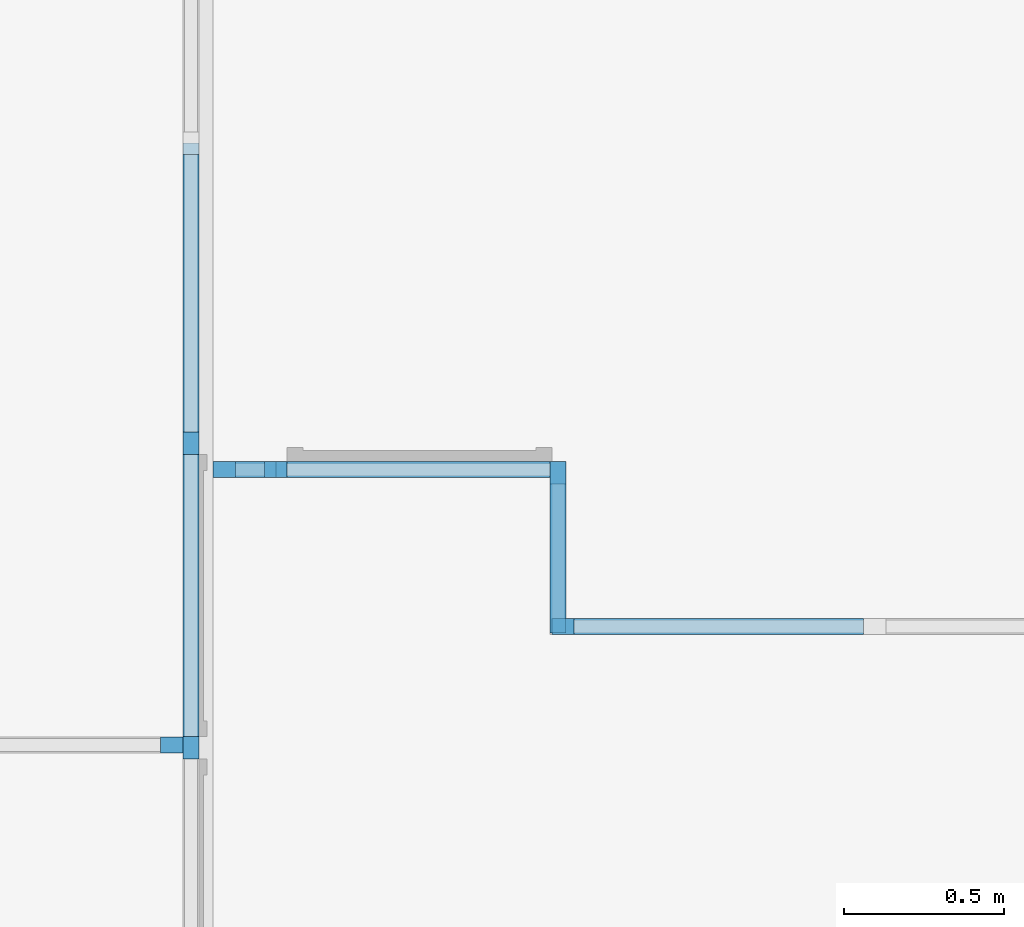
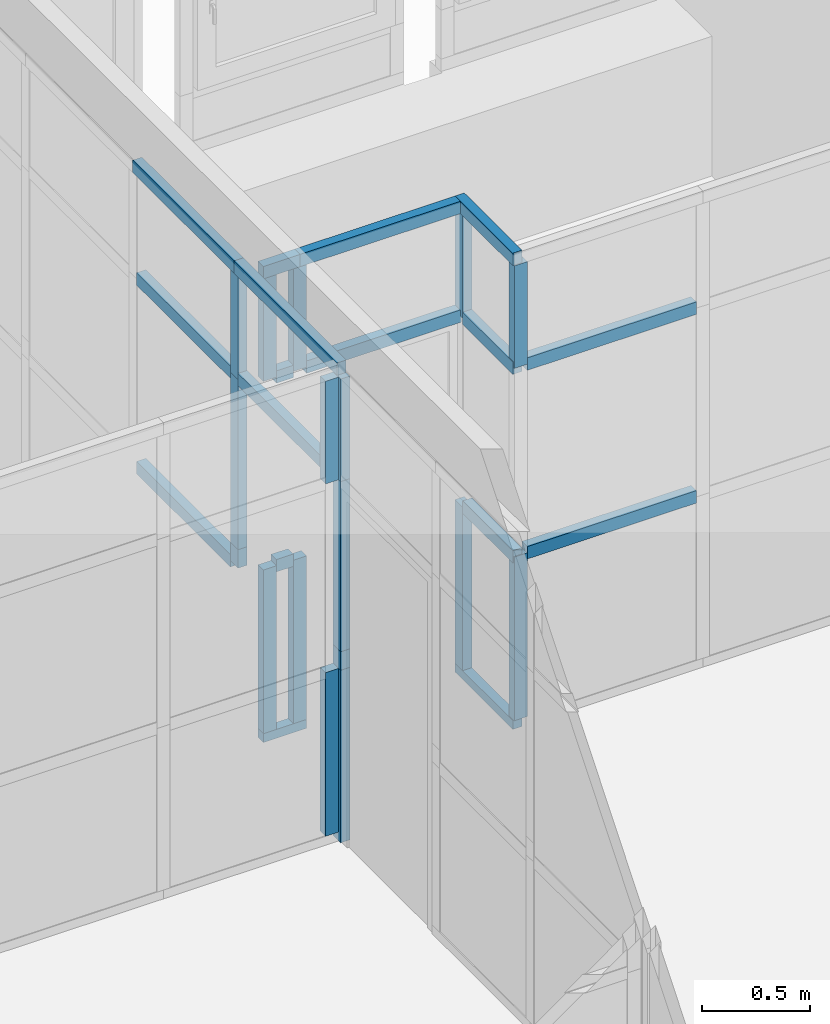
# One storey, part 21 of 97: 34 members, 5 elements without a shape of their own.
"""IFC4 building model written with IfcOpenShell, lengths in metres."""

from ifc_helpers import new_model, entity, si_unit, converted_unit, derived_unit, direction, frame, origin, place, context, subcontext, project, spatial, indexed_curve, outline, extrude, source, transform, mapped, material, type_object, type_shapes, element, aggregate, save


model = new_model("IFC4")

# Units and contexts
model_context = context("Model", 3, precision=1e-05, world=origin(), true_north=direction((6.12303176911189e-17, 1.0)))
body_context = subcontext(model_context, "Body", "Model", "MODEL_VIEW")
ifc_project = project(units=[si_unit("LENGTHUNIT", "METRE"), si_unit("AREAUNIT", "SQUARE_METRE"), si_unit("VOLUMEUNIT", "CUBIC_METRE"), converted_unit("PLANEANGLEUNIT", "DEGREE", entity("IfcRatioMeasure", 0.0174532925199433), si_unit("PLANEANGLEUNIT", "RADIAN"), dimensions=[0, 0, 0, 0, 0, 0, 0]), si_unit("MASSUNIT", "GRAM", prefix="KILO"), derived_unit("MASSDENSITYUNIT", [(si_unit("MASSUNIT", "GRAM", prefix="KILO"), 1), (si_unit("LENGTHUNIT", "METRE"), -3)]), derived_unit("MOMENTOFINERTIAUNIT", [(si_unit("LENGTHUNIT", "METRE"), 4)]), si_unit("TIMEUNIT", "SECOND"), si_unit("FREQUENCYUNIT", "HERTZ"), si_unit("THERMODYNAMICTEMPERATUREUNIT", "DEGREE_CELSIUS"), derived_unit("THERMALTRANSMITTANCEUNIT", [(si_unit("MASSUNIT", "GRAM", prefix="KILO"), 1), (si_unit("THERMODYNAMICTEMPERATUREUNIT", "KELVIN"), -1), (si_unit("TIMEUNIT", "SECOND"), -3)]), derived_unit("VOLUMETRICFLOWRATEUNIT", [(si_unit("LENGTHUNIT", "METRE"), 3), (si_unit("TIMEUNIT", "SECOND"), -1)]), si_unit("ELECTRICCURRENTUNIT", "AMPERE"), si_unit("ELECTRICVOLTAGEUNIT", "VOLT"), si_unit("POWERUNIT", "WATT"), si_unit("FORCEUNIT", "NEWTON", prefix="KILO"), si_unit("ILLUMINANCEUNIT", "LUX"), si_unit("LUMINOUSFLUXUNIT", "LUMEN"), si_unit("LUMINOUSINTENSITYUNIT", "CANDELA"), derived_unit("USERDEFINED", [(si_unit("MASSUNIT", "GRAM", prefix="KILO"), -1), (si_unit("LENGTHUNIT", "METRE"), -2), (si_unit("TIMEUNIT", "SECOND"), 3), (si_unit("LUMINOUSFLUXUNIT", "LUMEN"), 1)]), derived_unit("LINEARVELOCITYUNIT", [(si_unit("LENGTHUNIT", "METRE"), 1), (si_unit("TIMEUNIT", "SECOND"), -1)]), si_unit("PRESSUREUNIT", "PASCAL"), derived_unit("USERDEFINED", [(si_unit("LENGTHUNIT", "METRE"), -2), (si_unit("MASSUNIT", "GRAM", prefix="KILO"), 1), (si_unit("TIMEUNIT", "SECOND"), -2)]), derived_unit("LINEARFORCEUNIT", [(si_unit("MASSUNIT", "GRAM", prefix="KILO"), 1), (si_unit("LENGTHUNIT", "METRE"), 1), (si_unit("TIMEUNIT", "SECOND"), -2), (si_unit("LENGTHUNIT", "METRE"), -1)]), derived_unit("PLANARFORCEUNIT", [(si_unit("MASSUNIT", "GRAM", prefix="KILO"), 1), (si_unit("LENGTHUNIT", "METRE"), 1), (si_unit("TIMEUNIT", "SECOND"), -2), (si_unit("LENGTHUNIT", "METRE"), -2)])], contexts=[model_context])

# Site, building, storey
site_placement = place(None, origin())
site = spatial("IfcSite", under=ifc_project, at=site_placement, Name="Default", CompositionType="ELEMENT")
building_placement = place(site_placement, origin())
building = spatial("IfcBuilding", under=site, at=building_placement, Name="HOTEL CONSULAIRE BOULOGNE SUR MER", CompositionType="ELEMENT")
storey_placement = place(building_placement, frame((0.0, 0.0, 3.62152697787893)))
storey = spatial("IfcBuildingStorey", under=building, at=storey_placement, Name="Niveau 1", CompositionType="ELEMENT", Elevation=3.62152697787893)

# Curtain wall, members
curtain_wall_type = type_object("IfcCurtainWallType", Name="Mur-rideau:Simple panneau", PredefinedType="NOTDEFINED")
curtain_wall_1_placement = place(storey_placement, frame((0.0, 0.0, -3.62152697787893)))
curtain_wall_1 = element("IfcCurtainWall", 1, at=curtain_wall_1_placement, inside=storey, type_object=curtain_wall_type, Name="Mur-rideau:Simple panneau", ObjectType="Mur-rideau:Simple panneau", PredefinedType="NOTDEFINED")
ifc_material = material(Name="PVC, souple", Category="Plastique")
member_type_1 = type_object("IfcMemberType", Name="Meneau rectangulaire:50 x 35 pvc gris", PredefinedType="MULLION", material=ifc_material)
shared_shape_1 = source(origin(), body_context, "Body", "SweptSolid", [
    extrude(outline(indexed_curve([(-0.025, -0.035), (0.025, -0.035), (0.025, 0.035), (-0.025, 0.035), (-0.025, -0.035)], self_intersect=False)), frame((0.0, -0.025, -0.581), z_axis=(0.0, 0.0, 1.0), x_axis=(0.0, -1.0, 0.0)), (0.0, 0.0, 1.0), 0.581),
])
type_shapes(member_type_1, [shared_shape_1])
member_1_placement = place(storey_placement, frame((-9.64962464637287, -14.2312596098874, 2.04596046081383), z_axis=(0.0, 0.0, -1.0), x_axis=(0.0, 1.0, 0.0)))
member_1 = element("IfcMember", 2, at=member_1_placement, type_object=member_type_1, material=ifc_material, Name="Meneau rectangulaire:50 x 35 pvc gris", ObjectType="Meneau rectangulaire:50 x 35 pvc gris", PredefinedType="MULLION", context=body_context, shape_type="MappedRepresentation", body=[
    mapped(shared_shape_1, transform((0.0, 0.0, 0.0), scale=1.0)),
])
member_2_placement = place(storey_placement, frame((-9.64962464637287, -13.2772596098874, 2.04596046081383), z_axis=(0.0, 0.0, -1.0), x_axis=(0.0, 1.0, 0.0)))
member_2 = element("IfcMember", 3, at=member_2_placement, type_object=member_type_1, material=ifc_material, Name="Meneau rectangulaire:50 x 35 pvc gris", ObjectType="Meneau rectangulaire:50 x 35 pvc gris", PredefinedType="MULLION", context=body_context, shape_type="MappedRepresentation", body=[
    mapped(shared_shape_1, transform((0.0, 0.0, 0.0), scale=1.0)),
])

curtain_wall_2_placement = place(storey_placement, frame((0.0, 0.0, -3.62152697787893)))
curtain_wall_2 = element("IfcCurtainWall", 4, at=curtain_wall_2_placement, inside=storey, type_object=curtain_wall_type, Name="Mur-rideau:Simple panneau", ObjectType="Mur-rideau:Simple panneau", PredefinedType="NOTDEFINED")
member_3_placement = place(storey_placement, frame((-9.40862464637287, -13.3345509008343, 2.04596046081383), z_axis=(0.0, 0.0, -1.0), x_axis=(-1.0, 0.0, 0.0)))
member_3 = element("IfcMember", 5, at=member_3_placement, type_object=member_type_1, material=ifc_material, Name="Meneau rectangulaire:50 x 35 pvc gris", ObjectType="Meneau rectangulaire:50 x 35 pvc gris", PredefinedType="MULLION", context=body_context, shape_type="MappedRepresentation", body=[
    mapped(shared_shape_1, transform((0.0, 0.0, 0.0), scale=1.0)),
])
member_type_2 = type_object("IfcMemberType", Name="Meneau rectangulaire:50 x 35 pvc gris", PredefinedType="MULLION", material=ifc_material)
shared_shape_2 = source(origin(), body_context, "Body", "SweptSolid", [
    extrude(outline(indexed_curve([(-0.025, -0.035), (0.025, -0.035), (0.025, 0.035), (-0.025, 0.035), (-0.025, -0.035)], self_intersect=False)), frame((0.0, -0.025, -0.926960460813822), z_axis=(0.0, 0.0, 1.0), x_axis=(0.0, -1.0, 0.0)), (0.0, 0.0, 1.0), 0.926960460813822),
])
type_shapes(member_type_2, [shared_shape_2])
member_4_placement = place(storey_placement, frame((-9.40862464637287, -13.3345509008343, 0.050000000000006), z_axis=(0.0, 0.0, -1.0), x_axis=(-1.0, 0.0, 0.0)))
member_4 = element("IfcMember", 6, at=member_4_placement, type_object=member_type_2, material=ifc_material, Name="Meneau rectangulaire:50 x 35 pvc gris", ObjectType="Meneau rectangulaire:50 x 35 pvc gris", PredefinedType="MULLION", context=body_context, shape_type="MappedRepresentation", body=[
    mapped(shared_shape_2, transform((0.0, 0.0, 0.0), scale=1.0)),
])

# Member
member_type_3 = type_object("IfcMemberType", Name="Meneau rectangulaire:50 x 35 pvc gris", PredefinedType="MULLION", material=ifc_material)
shared_shape_3 = source(origin(), body_context, "Body", "SweptSolid", [
    extrude(outline(indexed_curve([(-0.025, -0.035), (0.025, -0.035), (0.025, 0.035), (-0.025, 0.035), (-0.025, -0.035)], self_intersect=False)), frame((0.0, -0.025, -0.870645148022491), z_axis=(0.0, 0.0, 1.0), x_axis=(0.0, -1.0, 0.0)), (0.0, 0.0, 1.0), 0.870645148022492),
])
type_shapes(member_type_3, [shared_shape_3])
member_5_placement = place(storey_placement, frame((-9.64962464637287, -12.3716144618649, 0.976960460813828), z_axis=(0.0, 1.0, 0.0), x_axis=(0.0, 0.0, 1.0)))
member_5 = element("IfcMember", 7, at=member_5_placement, type_object=member_type_3, material=ifc_material, Name="Meneau rectangulaire:50 x 35 pvc gris", ObjectType="Meneau rectangulaire:50 x 35 pvc gris", PredefinedType="MULLION", context=body_context, shape_type="MappedRepresentation", body=[
    mapped(shared_shape_3, transform((0.0, 0.0, 0.0), scale=1.0)),
])

member_6_placement = place(storey_placement, frame((-9.64962464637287, -12.3716144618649, 2.04596046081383), z_axis=(0.0, 1.0, 0.0), x_axis=(0.0, 0.0, 1.0)))
member_6 = element("IfcMember", 8, at=member_6_placement, type_object=member_type_3, material=ifc_material, Name="Meneau rectangulaire:50 x 35 pvc gris", ObjectType="Meneau rectangulaire:50 x 35 pvc gris", PredefinedType="MULLION", context=body_context, shape_type="MappedRepresentation", body=[
    mapped(shared_shape_3, transform((0.0, 0.0, 0.0), scale=1.0)),
])

member_type_4 = type_object("IfcMemberType", Name="Meneau rectangulaire:50 x 35 pvc gris", PredefinedType="MULLION", material=ifc_material)
shared_shape_4 = source(origin(), body_context, "Body", "SweptSolid", [
    extrude(outline(indexed_curve([(-0.025, -0.035), (0.025, -0.035), (0.025, 0.035), (-0.025, 0.035), (-0.025, -0.035)], self_intersect=False)), frame((0.0, -0.025, -0.883999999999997), z_axis=(0.0, 0.0, 1.0), x_axis=(0.0, -1.0, 0.0)), (0.0, 0.0, 1.0), 0.883999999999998),
])
type_shapes(member_type_4, [shared_shape_4])
member_7_placement = place(storey_placement, frame((-9.64962464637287, -13.3122596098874, 2.04596046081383), z_axis=(0.0, 1.0, 0.0), x_axis=(0.0, 0.0, 1.0)))
member_7 = element("IfcMember", 9, at=member_7_placement, type_object=member_type_4, material=ifc_material, Name="Meneau rectangulaire:50 x 35 pvc gris", ObjectType="Meneau rectangulaire:50 x 35 pvc gris", PredefinedType="MULLION", context=body_context, shape_type="MappedRepresentation", body=[
    mapped(shared_shape_4, transform((0.0, 0.0, 0.0), scale=1.0)),
])

member_type_5 = type_object("IfcMemberType", Name="Meneau rectangulaire:50 x 35 pvc gris", PredefinedType="MULLION", material=ifc_material)
shared_shape_5 = source(origin(), body_context, "Body", "SweptSolid", [
    extrude(outline(indexed_curve([(-0.025, -0.035), (0.025, -0.035), (0.025, 0.035), (-0.025, 0.035), (-0.025, -0.035)], self_intersect=False)), frame((0.0, -0.025, -0.105), z_axis=(0.0, 0.0, 1.0), x_axis=(0.0, -1.0, 0.0)), (0.0, 0.0, 1.0), 0.105),
])
type_shapes(member_type_5, [shared_shape_5])
member_8_placement = place(storey_placement, frame((-9.64962464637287, -13.2772596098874, 0.976960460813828), z_axis=(0.0, 0.0, -1.0), x_axis=(0.0, 1.0, 0.0)))
member_8 = element("IfcMember", 10, at=member_8_placement, type_object=member_type_5, material=ifc_material, Name="Meneau rectangulaire:50 x 35 pvc gris", ObjectType="Meneau rectangulaire:50 x 35 pvc gris", PredefinedType="MULLION", context=body_context, shape_type="MappedRepresentation", body=[
    mapped(shared_shape_5, transform((0.0, 0.0, 0.0), scale=1.0)),
])

member_type_6 = type_object("IfcMemberType", Name="Meneau rectangulaire:50 x 35 pvc gris", PredefinedType="MULLION", material=ifc_material)
shared_shape_6 = source(origin(), body_context, "Body", "SweptSolid", [
    extrude(outline(indexed_curve([(-0.025, -0.035), (0.025, -0.035), (0.025, 0.035), (-0.025, 0.035), (-0.025, -0.035)], self_intersect=False)), frame((0.0, -0.025, -0.964), z_axis=(0.0, 0.0, 1.0), x_axis=(0.0, -1.0, 0.0)), (0.0, 0.0, 1.0), 0.964),
])
type_shapes(member_type_6, [shared_shape_6])
member_9_placement = place(storey_placement, frame((-9.64962464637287, -14.2312596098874, 1.08196046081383), z_axis=(0.0, 0.0, -1.0), x_axis=(0.0, 1.0, 0.0)))
member_9 = element("IfcMember", 11, at=member_9_placement, type_object=member_type_6, material=ifc_material, Name="Meneau rectangulaire:50 x 35 pvc gris", ObjectType="Meneau rectangulaire:50 x 35 pvc gris", PredefinedType="MULLION", context=body_context, shape_type="MappedRepresentation", body=[
    mapped(shared_shape_6, transform((0.0, 0.0, 0.0), scale=1.0)),
])

member_10_placement = place(storey_placement, frame((-9.64962464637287, -13.2772596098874, 1.08196046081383), z_axis=(0.0, 0.0, -1.0), x_axis=(0.0, 1.0, 0.0)))
member_10 = element("IfcMember", 12, at=member_10_placement, type_object=member_type_6, material=ifc_material, Name="Meneau rectangulaire:50 x 35 pvc gris", ObjectType="Meneau rectangulaire:50 x 35 pvc gris", PredefinedType="MULLION", context=body_context, shape_type="MappedRepresentation", body=[
    mapped(shared_shape_6, transform((0.0, 0.0, 0.0), scale=1.0)),
])

# Curtain wall, member
curtain_wall_3_placement = place(storey_placement, frame((0.0, 0.0, -3.62152697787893)))
curtain_wall_3 = element("IfcCurtainWall", 13, at=curtain_wall_3_placement, inside=storey, type_object=curtain_wall_type, Name="Mur-rideau:Simple panneau", ObjectType="Mur-rideau:Simple panneau", PredefinedType="NOTDEFINED")
member_type_7 = type_object("IfcMemberType", Name="Meneau rectangulaire:50 x 35 pvc gris", PredefinedType="MULLION", material=ifc_material)
shared_shape_7 = source(origin(), body_context, "Body", "SweptSolid", [
    extrude(outline(indexed_curve([(-0.025, -0.035), (0.025, -0.035), (0.025, 0.035), (-0.025, 0.035), (-0.025, -0.035)], self_intersect=False)), frame((-0.035, -0.025, -0.581), z_axis=(0.0, 0.0, 1.0), x_axis=(0.0, -1.0, 0.0)), (0.0, 0.0, 1.0), 0.581),
])
type_shapes(member_type_7, [shared_shape_7])
member_11_placement = place(storey_placement, frame((-9.69962464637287, -14.2474499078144, 2.04596046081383), z_axis=(0.0, 0.0, -1.0), x_axis=(1.0, 0.0, 0.0)))
member_11 = element("IfcMember", 14, at=member_11_placement, type_object=member_type_7, material=ifc_material, Name="Meneau rectangulaire:50 x 35 pvc gris", ObjectType="Meneau rectangulaire:50 x 35 pvc gris", PredefinedType="MULLION", context=body_context, shape_type="MappedRepresentation", body=[
    mapped(shared_shape_7, transform((0.0, 0.0, 0.0), scale=1.0)),
])

# Member
member_12_placement = place(storey_placement, frame((-9.60462464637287, -13.3345509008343, 2.04596046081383), z_axis=(0.0, 0.0, -1.0), x_axis=(-1.0, 0.0, 0.0)))
member_12 = element("IfcMember", 15, at=member_12_placement, type_object=member_type_7, material=ifc_material, Name="Meneau rectangulaire:50 x 35 pvc gris", ObjectType="Meneau rectangulaire:50 x 35 pvc gris", PredefinedType="MULLION", context=body_context, shape_type="MappedRepresentation", body=[
    mapped(shared_shape_7, transform((0.0, 0.0, 0.0), scale=1.0)),
])

# Curtain wall, member
curtain_wall_4_placement = place(storey_placement, frame((0.0, 0.0, -3.62152697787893)))
curtain_wall_4 = element("IfcCurtainWall", 16, at=curtain_wall_4_placement, inside=storey, type_object=curtain_wall_type, Name="Mur-rideau:Simple panneau", ObjectType="Mur-rideau:Simple panneau", PredefinedType="NOTDEFINED")
member_13_placement = place(storey_placement, frame((-8.54396741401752, -13.8259141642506, 2.04596046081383), z_axis=(0.0, 0.0, -1.0), x_axis=(-1.0, 0.0, 0.0)))
member_13 = element("IfcMember", 17, at=member_13_placement, type_object=member_type_7, material=ifc_material, Name="Meneau rectangulaire:50 x 35 pvc gris", ObjectType="Meneau rectangulaire:50 x 35 pvc gris", PredefinedType="MULLION", context=body_context, shape_type="MappedRepresentation", body=[
    mapped(shared_shape_7, transform((0.0, 0.0, 0.0), scale=1.0)),
])

curtain_wall_5_placement = place(storey_placement, frame((0.0, 0.0, -3.62152697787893)))
curtain_wall_5 = element("IfcCurtainWall", 18, at=curtain_wall_5_placement, inside=storey, type_object=curtain_wall_type, Name="Mur-rideau:Simple panneau", ObjectType="Mur-rideau:Simple panneau", PredefinedType="NOTDEFINED")
member_14_placement = place(storey_placement, frame((-8.49896741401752, -13.3345509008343, 2.04596046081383), z_axis=(0.0, 0.0, -1.0), x_axis=(0.0, 1.0, 0.0)))
member_14 = element("IfcMember", 19, at=member_14_placement, type_object=member_type_7, material=ifc_material, Name="Meneau rectangulaire:50 x 35 pvc gris", ObjectType="Meneau rectangulaire:50 x 35 pvc gris", PredefinedType="MULLION", context=body_context, shape_type="MappedRepresentation", body=[
    mapped(shared_shape_7, transform((0.0, 0.0, 0.0), scale=1.0)),
])

# Member
member_type_8 = type_object("IfcMemberType", Name="Meneau rectangulaire:50 x 35 pvc gris", PredefinedType="MULLION", material=ifc_material)
shared_shape_8 = source(origin(), body_context, "Body", "SweptSolid", [
    extrude(outline(indexed_curve([(-0.025, -0.035), (0.025, -0.035), (0.025, 0.035), (-0.025, 0.035), (-0.025, -0.035)], self_intersect=False)), frame((-0.035, -0.025, -0.926960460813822), z_axis=(0.0, 0.0, 1.0), x_axis=(0.0, -1.0, 0.0)), (0.0, 0.0, 1.0), 0.926960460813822),
])
type_shapes(member_type_8, [shared_shape_8])
member_15_placement = place(storey_placement, frame((-9.69962464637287, -14.2474499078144, 0.050000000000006), z_axis=(0.0, 0.0, -1.0), x_axis=(1.0, 0.0, 0.0)))
member_15 = element("IfcMember", 20, at=member_15_placement, type_object=member_type_8, material=ifc_material, Name="Meneau rectangulaire:50 x 35 pvc gris", ObjectType="Meneau rectangulaire:50 x 35 pvc gris", PredefinedType="MULLION", context=body_context, shape_type="MappedRepresentation", body=[
    mapped(shared_shape_8, transform((0.0, 0.0, 0.0), scale=1.0)),
])

aggregate(curtain_wall_3, [member_11, member_15])

member_16_placement = place(storey_placement, frame((-9.60462464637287, -13.3345509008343, 0.050000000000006), z_axis=(0.0, 0.0, -1.0), x_axis=(-1.0, 0.0, 0.0)))
member_16 = element("IfcMember", 21, at=member_16_placement, type_object=member_type_8, material=ifc_material, Name="Meneau rectangulaire:50 x 35 pvc gris", ObjectType="Meneau rectangulaire:50 x 35 pvc gris", PredefinedType="MULLION", context=body_context, shape_type="MappedRepresentation", body=[
    mapped(shared_shape_8, transform((0.0, 0.0, 0.0), scale=1.0)),
])

member_17_placement = place(storey_placement, frame((-8.54396741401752, -13.8259141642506, 0.050000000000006), z_axis=(0.0, 0.0, -1.0), x_axis=(-1.0, 0.0, 0.0)))
member_17 = element("IfcMember", 22, at=member_17_placement, type_object=member_type_8, material=ifc_material, Name="Meneau rectangulaire:50 x 35 pvc gris", ObjectType="Meneau rectangulaire:50 x 35 pvc gris", PredefinedType="MULLION", context=body_context, shape_type="MappedRepresentation", body=[
    mapped(shared_shape_8, transform((0.0, 0.0, 0.0), scale=1.0)),
])

member_18_placement = place(storey_placement, frame((-8.49896741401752, -13.3345509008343, 0.050000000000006), z_axis=(0.0, 0.0, -1.0), x_axis=(0.0, 1.0, 0.0)))
member_18 = element("IfcMember", 23, at=member_18_placement, type_object=member_type_8, material=ifc_material, Name="Meneau rectangulaire:50 x 35 pvc gris", ObjectType="Meneau rectangulaire:50 x 35 pvc gris", PredefinedType="MULLION", context=body_context, shape_type="MappedRepresentation", body=[
    mapped(shared_shape_8, transform((0.0, 0.0, 0.0), scale=1.0)),
])

member_type_9 = type_object("IfcMemberType", Name="Meneau rectangulaire:50 x 35 pvc gris", PredefinedType="MULLION", material=ifc_material)
shared_shape_9 = source(origin(), body_context, "Body", "SweptSolid", [
    extrude(outline(indexed_curve([(-0.025, -0.035), (0.025, -0.035), (0.025, 0.035), (-0.025, 0.035), (-0.025, -0.035)], self_intersect=False)), frame((-0.035, -0.025, -0.940645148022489), z_axis=(0.0, 0.0, 1.0), x_axis=(0.0, -1.0, 0.0)), (0.0, 0.0, 1.0), 0.940645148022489),
])
type_shapes(member_type_9, [shared_shape_9])
member_19_placement = place(storey_placement, frame((-9.64962464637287, -12.3366144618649, 2.69696046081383), z_axis=(0.0, 1.0, 0.0), x_axis=(0.0, 0.0, 1.0)))
member_19 = element("IfcMember", 24, at=member_19_placement, type_object=member_type_9, material=ifc_material, Name="Meneau rectangulaire:50 x 35 pvc gris", ObjectType="Meneau rectangulaire:50 x 35 pvc gris", PredefinedType="MULLION", context=body_context, shape_type="MappedRepresentation", body=[
    mapped(shared_shape_9, transform((0.0, 0.0, 0.0), scale=1.0)),
])

member_type_10 = type_object("IfcMemberType", Name="Meneau rectangulaire:50 x 35 pvc gris", PredefinedType="MULLION", material=ifc_material)
shared_shape_10 = source(origin(), body_context, "Body", "SweptSolid", [
    extrude(outline(indexed_curve([(-0.025, -0.035), (0.025, -0.035), (0.025, 0.035), (-0.025, 0.035), (-0.025, -0.035)], self_intersect=False)), frame((-0.035, -0.025, -0.954), z_axis=(0.0, 0.0, 1.0), x_axis=(0.0, -1.0, 0.0)), (0.0, 0.0, 1.0), 0.954),
])
type_shapes(member_type_10, [shared_shape_10])
member_20_placement = place(storey_placement, frame((-9.64962464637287, -13.2772596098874, 2.69696046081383), z_axis=(0.0, 1.0, 0.0), x_axis=(0.0, 0.0, 1.0)))
member_20 = element("IfcMember", 25, at=member_20_placement, type_object=member_type_10, material=ifc_material, Name="Meneau rectangulaire:50 x 35 pvc gris", ObjectType="Meneau rectangulaire:50 x 35 pvc gris", PredefinedType="MULLION", context=body_context, shape_type="MappedRepresentation", body=[
    mapped(shared_shape_10, transform((0.0, 0.0, 0.0), scale=1.0)),
])

member_type_11 = type_object("IfcMemberType", Name="Meneau rectangulaire:50 x 35 pvc gris", PredefinedType="MULLION", material=ifc_material)
shared_shape_11 = source(origin(), body_context, "Body", "SweptSolid", [
    extrude(outline(indexed_curve([(-0.025, -0.035), (0.025, -0.035), (0.025, 0.035), (-0.025, 0.035), (-0.025, -0.035)], self_intersect=False)), frame((0.0, -0.025, -0.105), z_axis=(0.0, 0.0, 1.0), x_axis=(0.0, -1.0, 0.0)), (0.0, 0.0, 1.0), 0.105),
])
type_shapes(member_type_11, [shared_shape_11])
member_21_placement = place(storey_placement, frame((-9.64962464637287, -14.2312596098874, 0.976960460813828), z_axis=(0.0, 0.0, -1.0), x_axis=(0.0, 1.0, 0.0)))
member_21 = element("IfcMember", 26, at=member_21_placement, type_object=member_type_11, material=ifc_material, Name="Meneau rectangulaire:50 x 35 pvc gris", ObjectType="Meneau rectangulaire:50 x 35 pvc gris", PredefinedType="MULLION", context=body_context, shape_type="MappedRepresentation", body=[
    mapped(shared_shape_11, transform((0.0, 0.0, 0.0), scale=1.0)),
])

member_type_12 = type_object("IfcMemberType", Name="Meneau rectangulaire:50 x 35 pvc gris", PredefinedType="MULLION", material=ifc_material)
shared_shape_12 = source(origin(), body_context, "Body", "SweptSolid", [
    extrude(outline(indexed_curve([(-0.025, -0.035), (0.025, -0.035), (0.025, 0.035), (-0.025, 0.035), (-0.025, -0.035)], self_intersect=False)), frame((0.0, -0.025, -0.976960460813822), z_axis=(0.0, 0.0, 1.0), x_axis=(0.0, -1.0, 0.0)), (0.0, 0.0, 1.0), 0.976960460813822),
])
type_shapes(member_type_12, [shared_shape_12])
member_22_placement = place(storey_placement, frame((-9.64962464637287, -14.2312596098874, 0.0), z_axis=(0.0, 0.0, -1.0), x_axis=(0.0, 1.0, 0.0)))
member_22 = element("IfcMember", 27, at=member_22_placement, type_object=member_type_12, material=ifc_material, Name="Meneau rectangulaire:50 x 35 pvc gris", ObjectType="Meneau rectangulaire:50 x 35 pvc gris", PredefinedType="MULLION", context=body_context, shape_type="MappedRepresentation", body=[
    mapped(shared_shape_12, transform((0.0, 0.0, 0.0), scale=1.0)),
])

aggregate(curtain_wall_1, [member_5, member_6, member_7, member_19, member_20, member_21, member_9, member_1, member_22, member_8, member_10, member_2])

member_type_13 = type_object("IfcMemberType", Name="Meneau rectangulaire:50 x 35 pvc gris", PredefinedType="MULLION", material=ifc_material)
shared_shape_13 = source(origin(), body_context, "Body", "SweptSolid", [
    extrude(outline(indexed_curve([(-0.025, -0.035), (0.025, -0.035), (0.025, 0.035), (-0.025, 0.035), (-0.025, -0.035)], self_intersect=False)), frame((-0.035, -0.025, -0.864657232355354), z_axis=(0.0, 0.0, 1.0), x_axis=(0.0, -1.0, 0.0)), (0.0, 0.0, 1.0), 0.864657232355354),
])
type_shapes(member_type_13, [shared_shape_13])
member_23_placement = place(storey_placement, frame((-9.40862464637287, -13.3345509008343, 2.69696046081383), z_axis=(-1.0, 0.0, 0.0), x_axis=(0.0, 0.0, 1.0)))
member_23 = element("IfcMember", 28, at=member_23_placement, type_object=member_type_13, material=ifc_material, Name="Meneau rectangulaire:50 x 35 pvc gris", ObjectType="Meneau rectangulaire:50 x 35 pvc gris", PredefinedType="MULLION", context=body_context, shape_type="MappedRepresentation", body=[
    mapped(shared_shape_13, transform((0.0, 0.0, 0.0), scale=1.0)),
])

member_type_14 = type_object("IfcMemberType", Name="Meneau rectangulaire:50 x 35 pvc gris", PredefinedType="MULLION", material=ifc_material)
shared_shape_14 = source(origin(), body_context, "Body", "SweptSolid", [
    extrude(outline(indexed_curve([(-0.025, -0.035), (0.025, -0.035), (0.025, 0.035), (-0.025, 0.035), (-0.025, -0.035)], self_intersect=False)), frame((-0.035, -0.025, -0.196), z_axis=(0.0, 0.0, 1.0), x_axis=(0.0, -1.0, 0.0)), (0.0, 0.0, 1.0), 0.196),
])
type_shapes(member_type_14, [shared_shape_14])
member_24_placement = place(storey_placement, frame((-9.60462464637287, -13.3345509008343, 2.69696046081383), z_axis=(-1.0, 0.0, 0.0), x_axis=(0.0, 0.0, 1.0)))
member_24 = element("IfcMember", 29, at=member_24_placement, type_object=member_type_14, material=ifc_material, Name="Meneau rectangulaire:50 x 35 pvc gris", ObjectType="Meneau rectangulaire:50 x 35 pvc gris", PredefinedType="MULLION", context=body_context, shape_type="MappedRepresentation", body=[
    mapped(shared_shape_14, transform((0.0, 0.0, 0.0), scale=1.0)),
])

member_type_15 = type_object("IfcMemberType", Name="Meneau rectangulaire:50 x 35 pvc gris", PredefinedType="MULLION", material=ifc_material)
shared_shape_15 = source(origin(), body_context, "Body", "SweptSolid", [
    extrude(outline(indexed_curve([(-0.025, -0.035), (0.025, -0.035), (0.025, 0.035), (-0.025, 0.035), (-0.025, -0.035)], self_intersect=False)), frame((0.0, -0.025, -0.0909999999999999), z_axis=(0.0, 0.0, 1.0), x_axis=(0.0, -1.0, 0.0)), (0.0, 0.0, 1.0), 0.0909999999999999),
])
type_shapes(member_type_15, [shared_shape_15])
member_25_placement = place(storey_placement, frame((-9.53462464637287, -13.3345509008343, 2.04596046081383), z_axis=(-1.0, 0.0, 0.0), x_axis=(0.0, 0.0, 1.0)))
member_25 = element("IfcMember", 30, at=member_25_placement, type_object=member_type_15, material=ifc_material, Name="Meneau rectangulaire:50 x 35 pvc gris", ObjectType="Meneau rectangulaire:50 x 35 pvc gris", PredefinedType="MULLION", context=body_context, shape_type="MappedRepresentation", body=[
    mapped(shared_shape_15, transform((0.0, 0.0, 0.0), scale=1.0)),
])

member_26_placement = place(storey_placement, frame((-9.53462464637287, -13.3345509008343, 0.977000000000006), z_axis=(-1.0, 0.0, 0.0), x_axis=(0.0, 0.0, 1.0)))
member_26 = element("IfcMember", 31, at=member_26_placement, type_object=member_type_15, material=ifc_material, Name="Meneau rectangulaire:50 x 35 pvc gris", ObjectType="Meneau rectangulaire:50 x 35 pvc gris", PredefinedType="MULLION", context=body_context, shape_type="MappedRepresentation", body=[
    mapped(shared_shape_15, transform((0.0, 0.0, 0.0), scale=1.0)),
])

member_type_16 = type_object("IfcMemberType", Name="Meneau rectangulaire:50 x 35 pvc gris", PredefinedType="MULLION", material=ifc_material)
shared_shape_16 = source(origin(), body_context, "Body", "SweptSolid", [
    extrude(outline(indexed_curve([(-0.025, -0.035), (0.025, -0.035), (0.025, 0.035), (-0.025, 0.035), (-0.025, -0.035)], self_intersect=False)), frame((0.0, -0.025, -0.829657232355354), z_axis=(0.0, 0.0, 1.0), x_axis=(0.0, -1.0, 0.0)), (0.0, 0.0, 1.0), 0.829657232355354),
])
type_shapes(member_type_16, [shared_shape_16])
member_27_placement = place(storey_placement, frame((-9.37362464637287, -13.3345509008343, 2.04596046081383), z_axis=(-1.0, 0.0, 0.0), x_axis=(0.0, 0.0, 1.0)))
member_27 = element("IfcMember", 32, at=member_27_placement, type_object=member_type_16, material=ifc_material, Name="Meneau rectangulaire:50 x 35 pvc gris", ObjectType="Meneau rectangulaire:50 x 35 pvc gris", PredefinedType="MULLION", context=body_context, shape_type="MappedRepresentation", body=[
    mapped(shared_shape_16, transform((0.0, 0.0, 0.0), scale=1.0)),
])

member_type_17 = type_object("IfcMemberType", Name="Meneau rectangulaire:50 x 25mm pvc gris", PredefinedType="MULLION", material=ifc_material)
shared_shape_17 = source(origin(), body_context, "Body", "SweptSolid", [
    extrude(outline(indexed_curve([(-0.025, -0.025), (0.025, -0.025), (0.025, 0.025), (-0.025, 0.025), (-0.025, -0.025)], self_intersect=False)), frame((-0.025, -0.025, -0.230999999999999), z_axis=(0.0, 0.0, 1.0), x_axis=(0.0, -1.0, 0.0)), (0.0, 0.0, 1.0), 0.231),
])
type_shapes(member_type_17, [shared_shape_17])
member_28_placement = place(storey_placement, frame((-9.37362464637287, -13.3345509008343, 0.0), z_axis=(1.0, 0.0, 0.0), x_axis=(0.0, 0.0, -1.0)))
member_28 = element("IfcMember", 33, at=member_28_placement, type_object=member_type_17, material=ifc_material, Name="Meneau rectangulaire:50 x 25mm pvc gris", ObjectType="Meneau rectangulaire:50 x 25mm pvc gris", PredefinedType="MULLION", context=body_context, shape_type="MappedRepresentation", body=[
    mapped(shared_shape_17, transform((0.0, 0.0, 0.0), scale=1.0)),
])

aggregate(curtain_wall_2, [member_23, member_24, member_3, member_4, member_25, member_27, member_12, member_16, member_26, member_28])

member_type_18 = type_object("IfcMemberType", Name="Meneau rectangulaire:50 x 35 pvc gris", PredefinedType="MULLION", material=ifc_material)
shared_shape_18 = source(origin(), body_context, "Body", "SweptSolid", [
    extrude(outline(indexed_curve([(-0.025, -0.035), (0.025, -0.035), (0.025, 0.035), (-0.025, 0.035), (-0.025, -0.035)], self_intersect=False)), frame((0.0, -0.025, -0.906398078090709), z_axis=(0.0, 0.0, 1.0), x_axis=(0.0, -1.0, 0.0)), (0.0, 0.0, 1.0), 0.906398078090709),
])
type_shapes(member_type_18, [shared_shape_18])
member_29_placement = place(storey_placement, frame((-8.47396741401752, -13.8259141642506, 2.04596046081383), z_axis=(-1.0, 0.0, 0.0), x_axis=(0.0, 0.0, 1.0)))
member_29 = element("IfcMember", 34, at=member_29_placement, type_object=member_type_18, material=ifc_material, Name="Meneau rectangulaire:50 x 35 pvc gris", ObjectType="Meneau rectangulaire:50 x 35 pvc gris", PredefinedType="MULLION", context=body_context, shape_type="MappedRepresentation", body=[
    mapped(shared_shape_18, transform((0.0, 0.0, 0.0), scale=1.0)),
])

member_30_placement = place(storey_placement, frame((-8.47396741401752, -13.8259141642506, 0.977000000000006), z_axis=(-1.0, 0.0, 0.0), x_axis=(0.0, 0.0, 1.0)))
member_30 = element("IfcMember", 35, at=member_30_placement, type_object=member_type_18, material=ifc_material, Name="Meneau rectangulaire:50 x 35 pvc gris", ObjectType="Meneau rectangulaire:50 x 35 pvc gris", PredefinedType="MULLION", context=body_context, shape_type="MappedRepresentation", body=[
    mapped(shared_shape_18, transform((0.0, 0.0, 0.0), scale=1.0)),
])

aggregate(curtain_wall_4, [member_29, member_30, member_13, member_17])

member_type_19 = type_object("IfcMemberType", Name="Meneau rectangulaire:50 x 35 pvc gris", PredefinedType="MULLION", material=ifc_material)
shared_shape_19 = source(origin(), body_context, "Body", "SweptSolid", [
    extrude(outline(indexed_curve([(-0.025, -0.035), (0.025, -0.035), (0.025, 0.035), (-0.025, 0.035), (-0.025, -0.035)], self_intersect=False)), frame((0.0, -0.025, -0.466363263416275), z_axis=(0.0, 0.0, 1.0), x_axis=(0.0, -1.0, 0.0)), (0.0, 0.0, 1.0), 0.466363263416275),
])
type_shapes(member_type_19, [shared_shape_19])
member_31_placement = place(storey_placement, frame((-8.49896741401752, -13.4045509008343, 0.977000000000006), z_axis=(0.0, 1.0, 0.0), x_axis=(0.0, 0.0, 1.0)))
member_31 = element("IfcMember", 36, at=member_31_placement, type_object=member_type_19, material=ifc_material, Name="Meneau rectangulaire:50 x 35 pvc gris", ObjectType="Meneau rectangulaire:50 x 35 pvc gris", PredefinedType="MULLION", context=body_context, shape_type="MappedRepresentation", body=[
    mapped(shared_shape_19, transform((0.0, 0.0, 0.0), scale=1.0)),
])

member_32_placement = place(storey_placement, frame((-8.49896741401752, -13.4045509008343, 2.04596046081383), z_axis=(0.0, 1.0, 0.0), x_axis=(0.0, 0.0, 1.0)))
member_32 = element("IfcMember", 37, at=member_32_placement, type_object=member_type_19, material=ifc_material, Name="Meneau rectangulaire:50 x 35 pvc gris", ObjectType="Meneau rectangulaire:50 x 35 pvc gris", PredefinedType="MULLION", context=body_context, shape_type="MappedRepresentation", body=[
    mapped(shared_shape_19, transform((0.0, 0.0, 0.0), scale=1.0)),
])

member_type_20 = type_object("IfcMemberType", Name="Meneau rectangulaire:50 x 35 pvc gris", PredefinedType="MULLION", material=ifc_material)
shared_shape_20 = source(origin(), body_context, "Body", "SweptSolid", [
    extrude(outline(indexed_curve([(-0.025, -0.035), (0.025, -0.035), (0.025, 0.035), (-0.025, 0.035), (-0.025, -0.035)], self_intersect=False)), frame((-0.035, -0.025, -0.536363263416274), z_axis=(0.0, 0.0, 1.0), x_axis=(0.0, -1.0, 0.0)), (0.0, 0.0, 1.0), 0.536363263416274),
])
type_shapes(member_type_20, [shared_shape_20])
member_33_placement = place(storey_placement, frame((-8.49896741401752, -13.3345509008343, 2.69696046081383), z_axis=(0.0, 1.0, 0.0), x_axis=(0.0, 0.0, 1.0)))
member_33 = element("IfcMember", 38, at=member_33_placement, type_object=member_type_20, material=ifc_material, Name="Meneau rectangulaire:50 x 35 pvc gris", ObjectType="Meneau rectangulaire:50 x 35 pvc gris", PredefinedType="MULLION", context=body_context, shape_type="MappedRepresentation", body=[
    mapped(shared_shape_20, transform((0.0, 0.0, 0.0), scale=1.0)),
])

member_type_21 = type_object("IfcMemberType", Name="Meneau rectangulaire:50 x 25mm pvc gris", PredefinedType="MULLION", material=ifc_material)
shared_shape_21 = source(origin(), body_context, "Body", "SweptSolid", [
    extrude(outline(indexed_curve([(-0.025, -0.025), (0.025, -0.025), (0.025, 0.025), (-0.025, 0.025), (-0.025, -0.025)], self_intersect=False)), frame((-0.025, -0.025, -0.536363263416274), z_axis=(0.0, 0.0, 1.0), x_axis=(0.0, -1.0, 0.0)), (0.0, 0.0, 1.0), 0.536363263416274),
])
type_shapes(member_type_21, [shared_shape_21])
member_34_placement = place(storey_placement, frame((-8.49896741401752, -13.8709141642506, 0.0), z_axis=(0.0, -1.0, 0.0), x_axis=(0.0, 0.0, -1.0)))
member_34 = element("IfcMember", 39, at=member_34_placement, type_object=member_type_21, material=ifc_material, Name="Meneau rectangulaire:50 x 25mm pvc gris", ObjectType="Meneau rectangulaire:50 x 25mm pvc gris", PredefinedType="MULLION", context=body_context, shape_type="MappedRepresentation", body=[
    mapped(shared_shape_21, transform((0.0, 0.0, 0.0), scale=1.0)),
])

aggregate(curtain_wall_5, [member_14, member_18, member_31, member_32, member_33, member_34])

save(model, "model.ifc")
